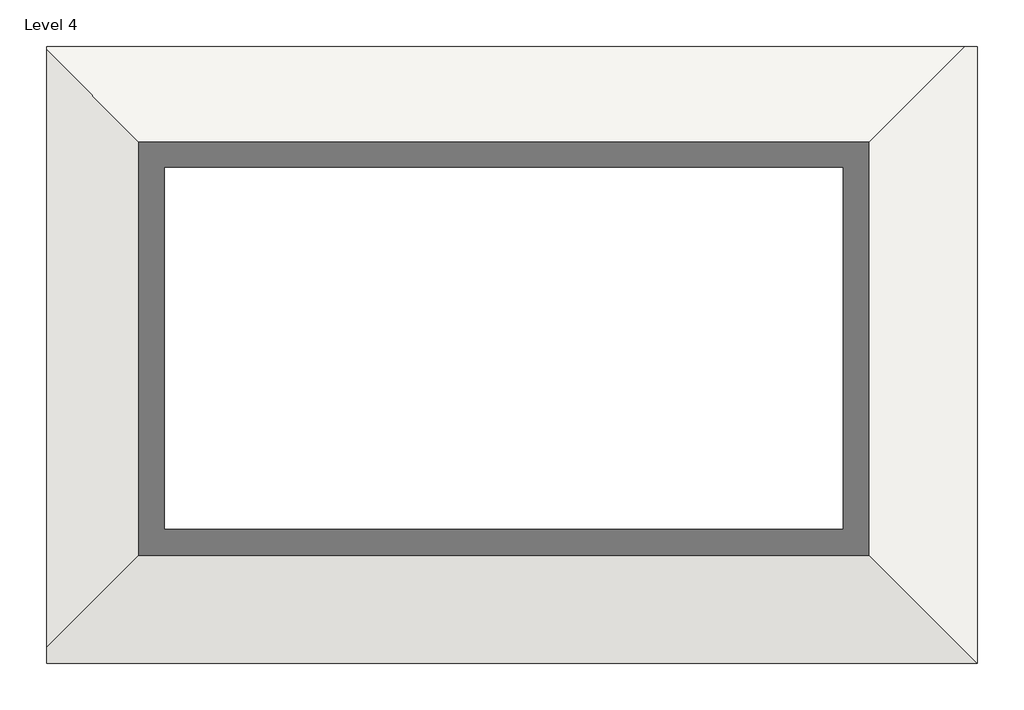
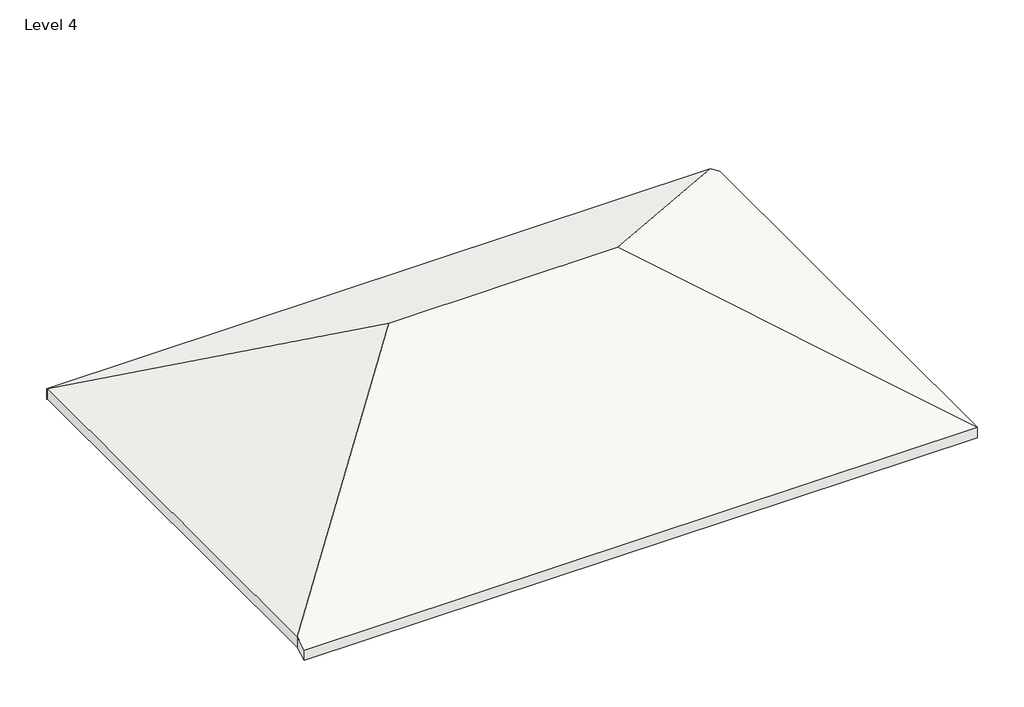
# One storey: 1 roof.
"""IFC4 building model written with IfcOpenShell, lengths in millimetres."""

from ifc_helpers import new_model, si_unit, origin, place, context, project, spatial, faceted_brep, element, save

model = new_model("IFC4")

# Units and contexts
model_context = context("Model", 3, world=origin())
ifc_project = project(units=[si_unit("LENGTHUNIT", "METRE", prefix="MILLI")], contexts=[model_context])

# Site, building, storey
site = spatial("IfcSite", under=ifc_project)
building = spatial("IfcBuilding", under=site)
storey = spatial("IfcBuildingStorey", under=building, Name="Level 4", Elevation=10400.0)

# Roof
placement = place(None, origin())
element("IfcRoof", 1, ObjectType="Generic - 400mm", at=placement, inside=storey, context=model_context, shape_type="Brep", body=[
    faceted_brep([(14208.2133641, 12500.7445405, 9476.2395693), (14608.2133641, 12500.7445405, 9245.2994616), (14608.2133641, -6199.2554595, 9245.2994616), (5058.2133641, 3350.7445405, 14758.9945324), (-4541.7866359, 3350.7445405, 14758.9945324), (-13591.7866359, 12400.7445405, 9533.9745962), (-13591.7866359, 12500.7445405, 9476.2395693), (-13591.7866359, -5699.2554595, 9533.9745962), (-13591.7866359, -6199.2554595, 9245.2994616), (14608.2133641, 12500.7445405, 9707.179677), (14208.2133641, 12500.7445405, 9938.1197846), (5058.2133641, 3350.7445405, 15220.8747477), (14608.2133641, -6199.2554595, 9707.179677), (-13591.7866359, 12500.7445405, 9938.1197846), (-13591.7866359, 12400.7445405, 9995.8548116), (-4541.7866359, 3350.7445405, 15220.8747477), (-13591.7866359, -5699.2554595, 9995.8548116), (-13591.7866359, -6199.2554595, 9707.179677)], [[[0, 1, 2, 3]], [[0, 3, 4, 5, 6]], [[5, 4, 7]], [[8, 7, 4, 3, 2]], [[9, 10, 11, 12]], [[10, 13, 14, 15, 11]], [[14, 16, 15]], [[16, 17, 12, 11, 15]], [[6, 13, 10, 0]], [[7, 16, 14, 5]], [[2, 12, 17, 8]], [[1, 9, 12, 2]], [[10, 9, 1, 0]], [[14, 13, 6, 5]], [[17, 16, 7, 8]]]),
])

save(model, "model.ifc")
